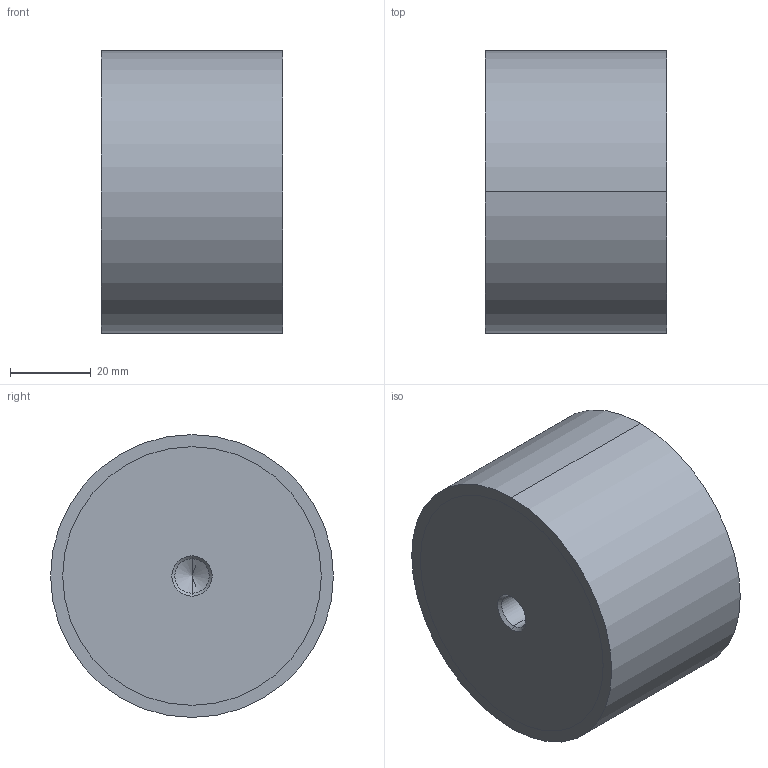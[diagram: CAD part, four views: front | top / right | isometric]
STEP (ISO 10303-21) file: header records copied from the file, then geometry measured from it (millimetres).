
FILE_DESCRIPTION (( 'STEP AP214' ), '1' );
FILE_NAME ('351-70-45-M10-EE-55.step', '2025-07-23T09:48:38', ( '' ), ( '' ), 'SwSTEP 2.0', 'SolidWorks 2022', '' );
FILE_SCHEMA (( 'AUTOMOTIVE_DESIGN' ));
Length unit declared in the file: millimetre
Products named in the file (1): 351-70-45-M10-EE-55
Bounding box: 45 x 70 x 70 mm (x, y, z)
Volume: 171741.5 mm3; surface area: 18189.1 mm2
Topology: 1 solids, 1 shells, 28 faces, 58 edges, 34 vertices
Faces by surface type: cylinder 14, cone 8, plane 6
Entity records: 844 total; most frequent: DIRECTION 144, CARTESIAN_POINT 117, ORIENTED_EDGE 108, AXIS2_PLACEMENT_3D 61, EDGE_CURVE 54, EDGE_LOOP 34, VERTEX_POINT 34, CIRCLE 32
